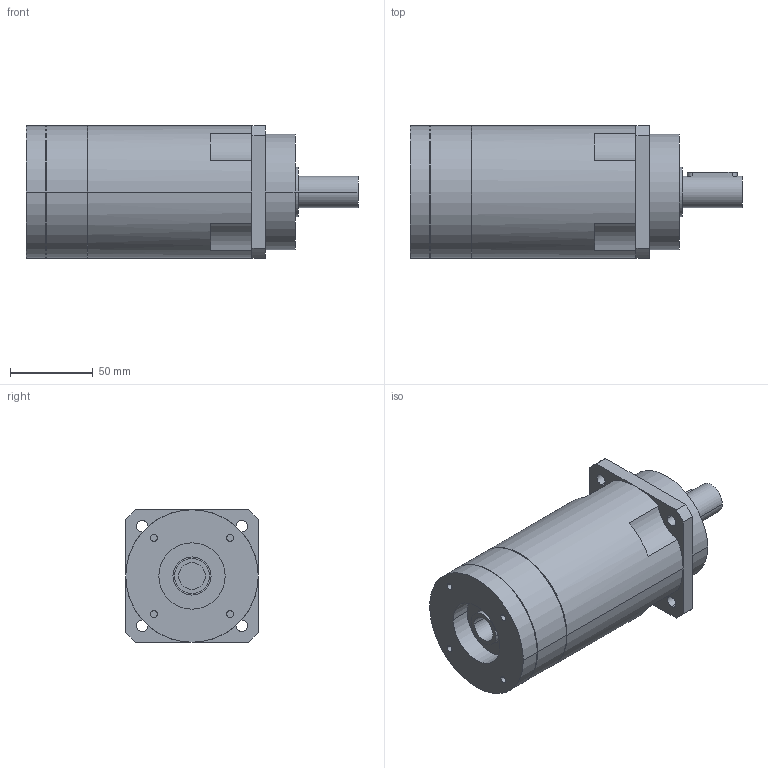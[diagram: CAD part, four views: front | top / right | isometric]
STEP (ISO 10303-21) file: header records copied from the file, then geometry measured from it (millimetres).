
FILE_DESCRIPTION(('CoCreate Modeling STEP Export'),'2;1');
FILE_NAME('GPR100_ig-48-64-80-100-120-144-180-216_19_B5_16_P26.stp','2014-08-26T11:55:52',(''),(''),'CoCreate Modeling STEP processor for AP214 (Solid Model)','CoCreate Modeling 16.00C 25-Feb-2009 (C) Parametric Technology GmbH','');
FILE_SCHEMA(('AUTOMOTIVE_DESIGN { 1 0 10303 214 1 1 1 1 }'));
Length unit declared in the file: millimetre
Products named in the file (2): GPR100_ig-48-64-80-100-120-144-180-216_19_B5_16_P26
Assembly tree (1 placements, depth 2):
  GPR100_ig-48-64-80-100-120-144-180-216_19_B5_16_P26
    GPR100_ig-48-64-80-100-120-144-180-216_19_B5_16_P26
Bounding box: 200.4 x 80 x 80 mm (x, y, z)
Volume: 786750.1 mm3; surface area: 61812.8 mm2
Topology: 1 solids, 1 shells, 84 faces, 216 edges, 146 vertices
Faces by surface type: cylinder 48, plane 30, cone 6
Entity records: 2299 total; most frequent: ORIENTED_EDGE 428, CARTESIAN_POINT 418, DIRECTION 336, EDGE_CURVE 214, VERTEX_POINT 146, AXIS2_PLACEMENT_3D 128, EDGE_LOOP 106, FACE_OUTER_BOUND 84
